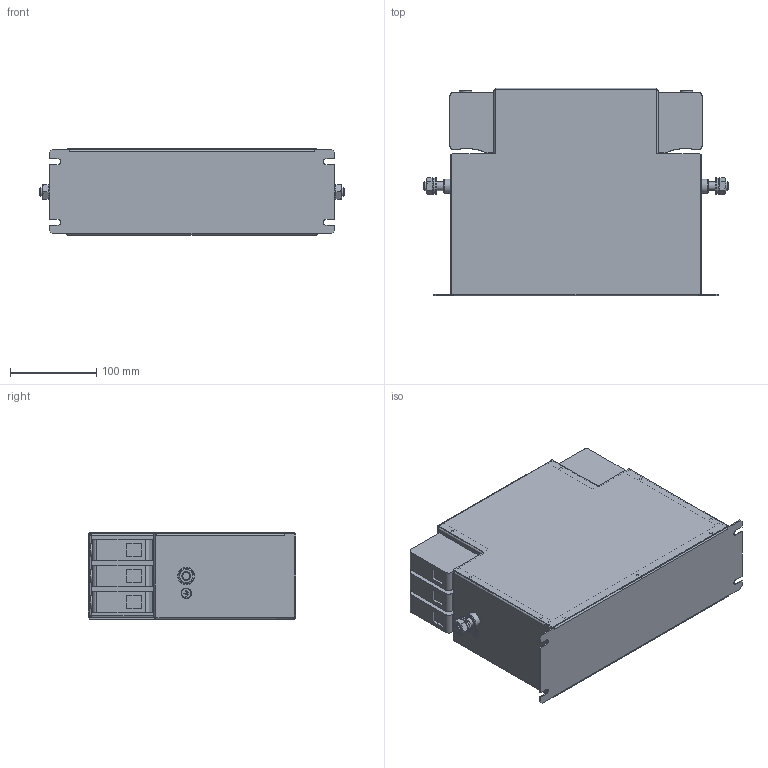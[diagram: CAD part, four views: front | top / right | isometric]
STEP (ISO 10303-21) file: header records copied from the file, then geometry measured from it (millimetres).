
FILE_DESCRIPTION(/* description */ ('raw material description'),/* implementation_level */ '2;1');
FILE_NAME(/* name */ 'C:\Users\Oliver.Volic\OneDrive - Schaffner EMV AG\Projekte\STEP\Wanda\FN3288IT-160-40.stp',/* time_stamp */ '2018-07-02T11:31:22+02:00',/* author */ ('Oliver.Volic'),/* organization */ ('Schaffner EMV AG'),/* preprocessor_version */ 'ST-DEVELOPER v16.5',/* originating_system */ 'Autodesk Inventor 2017',/* authorisation */ '');
FILE_SCHEMA (('AUTOMOTIVE_DESIGN { 1 0 10303 214 3 1 1 }'));
Length unit declared in the file: millimetre
Products named in the file (1): FN3288IT-160-40.
Bounding box: 352.64 x 240.05 x 100 mm (x, y, z)
Volume: 828884.9 mm3; surface area: 527849 mm2
Topology: 1 solids, 1 shells, 606 faces, 1476 edges, 914 vertices
Faces by surface type: plane 441, cylinder 117, cone 24, bspline 24
Full cylindrical faces by diameter (mm): 3 x6, 3.3 x13, 4.82 x4, 9.188 x2, 10 x4, 10.5 x2, 11 x2, 12 x2, 12.7 x2, 14.5 x6, 15.4 x2, 16.5 x2, 20 x2
Entity records: 18084 total; most frequent: CARTESIAN_POINT 3697, ORIENTED_EDGE 2814, DIRECTION 2750, EDGE_CURVE 1399, LINE 1022, VECTOR 1022, VERTEX_POINT 898, AXIS2_PLACEMENT_3D 864
